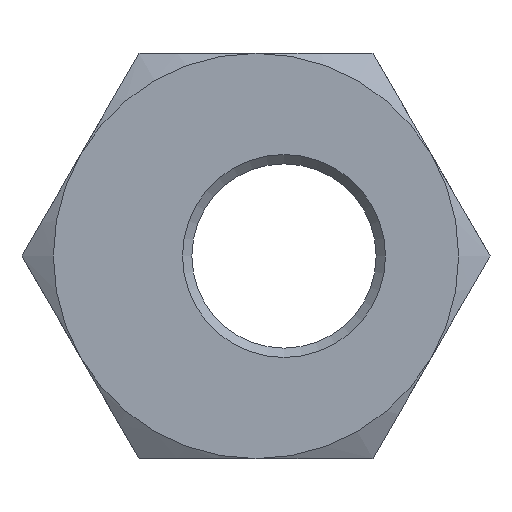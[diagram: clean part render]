
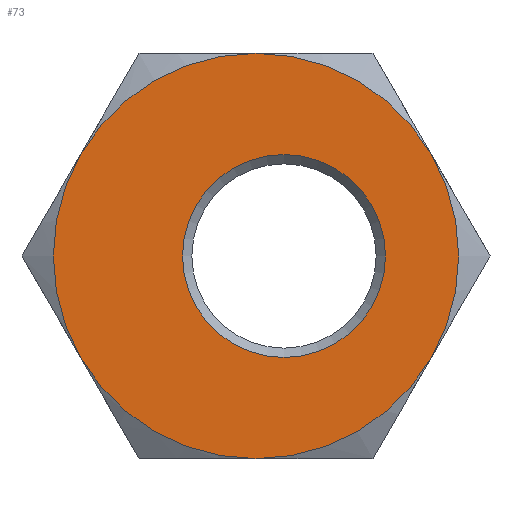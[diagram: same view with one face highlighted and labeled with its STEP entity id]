
A CAD part, left-side view. The second image highlights one B-rep face of the part: STEP entity #73.
In plain terms, the highlighted planar face has unit normal (-1, 0, 0).
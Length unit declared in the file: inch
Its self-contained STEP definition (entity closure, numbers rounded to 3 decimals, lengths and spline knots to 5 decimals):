
#73 = ADVANCED_FACE( '', ( #160, #161 ), #162, .F. );
#160 = FACE_OUTER_BOUND( '', #257, .T. );
#161 = FACE_BOUND( '', #258, .T. );
#162 = PLANE( '', #259 );
#257 = EDGE_LOOP( '', ( #393, #394, #395, #396, #397, #398 ) );
#258 = EDGE_LOOP( '', ( #399 ) );
#259 = AXIS2_PLACEMENT_3D( '', #400, #401, #402 );
#393 = ORIENTED_EDGE( '', *, *, #565, .F. );
#394 = ORIENTED_EDGE( '', *, *, #536, .F. );
#395 = ORIENTED_EDGE( '', *, *, #566, .F. );
#396 = ORIENTED_EDGE( '', *, *, #567, .F. );
#397 = ORIENTED_EDGE( '', *, *, #554, .F. );
#398 = ORIENTED_EDGE( '', *, *, #568, .F. );
#399 = ORIENTED_EDGE( '', *, *, #550, .T. );
#400 = CARTESIAN_POINT( '', ( 0., 0., 0. ) );
#401 = DIRECTION( '', ( 1., 0., 0. ) );
#402 = DIRECTION( '', ( 0., 0., -1. ) );
#536 = EDGE_CURVE( '', #627, #628, #629, .T. );
#550 = EDGE_CURVE( '', #649, #649, #650, .T. );
#554 = EDGE_CURVE( '', #655, #652, #657, .T. );
#565 = EDGE_CURVE( '', #628, #667, #674, .T. );
#566 = EDGE_CURVE( '', #604, #627, #675, .T. );
#567 = EDGE_CURVE( '', #652, #604, #676, .T. );
#568 = EDGE_CURVE( '', #667, #655, #677, .T. );
#604 = VERTEX_POINT( '', #727 );
#627 = VERTEX_POINT( '', #762 );
#628 = VERTEX_POINT( '', #763 );
#629 = CIRCLE( '', #764, 0.43307 );
#649 = VERTEX_POINT( '', #820 );
#650 = CIRCLE( '', #821, 0.21685 );
#652 = VERTEX_POINT( '', #823 );
#655 = VERTEX_POINT( '', #833 );
#657 = CIRCLE( '', #840, 0.43307 );
#667 = VERTEX_POINT( '', #864 );
#674 = CIRCLE( '', #883, 0.43307 );
#675 = CIRCLE( '', #884, 0.43307 );
#676 = CIRCLE( '', #885, 0.43307 );
#677 = CIRCLE( '', #886, 0.43307 );
#727 = CARTESIAN_POINT( '', ( 0., -0.37505, -0.21654 ) );
#762 = CARTESIAN_POINT( '', ( 0., 0., -0.43307 ) );
#763 = CARTESIAN_POINT( '', ( 0., 0.37505, -0.21654 ) );
#764 = AXIS2_PLACEMENT_3D( '', #991, #992, #993 );
#820 = CARTESIAN_POINT( '', ( 0., -0.05984, -0.21685 ) );
#821 = AXIS2_PLACEMENT_3D( '', #1003, #1004, #1005 );
#823 = CARTESIAN_POINT( '', ( 0., -0.37505, 0.21654 ) );
#833 = CARTESIAN_POINT( '', ( 0., 0., 0.43307 ) );
#840 = AXIS2_PLACEMENT_3D( '', #1006, #1007, #1008 );
#864 = CARTESIAN_POINT( '', ( 0., 0.37505, 0.21654 ) );
#883 = AXIS2_PLACEMENT_3D( '', #1014, #1015, #1016 );
#884 = AXIS2_PLACEMENT_3D( '', #1017, #1018, #1019 );
#885 = AXIS2_PLACEMENT_3D( '', #1020, #1021, #1022 );
#886 = AXIS2_PLACEMENT_3D( '', #1023, #1024, #1025 );
#991 = CARTESIAN_POINT( '', ( 0., 0., 0. ) );
#992 = DIRECTION( '', ( 1., 0., 0. ) );
#993 = DIRECTION( '', ( 0., 0., -1. ) );
#1003 = CARTESIAN_POINT( '', ( 0., -0.05984, 0. ) );
#1004 = DIRECTION( '', ( 1., 0., 0. ) );
#1005 = DIRECTION( '', ( 0., 0., -1. ) );
#1006 = CARTESIAN_POINT( '', ( 0., 0., 0. ) );
#1007 = DIRECTION( '', ( 1., 0., 0. ) );
#1008 = DIRECTION( '', ( 0., 0., -1. ) );
#1014 = CARTESIAN_POINT( '', ( 0., 0., 0. ) );
#1015 = DIRECTION( '', ( 1., 0., 0. ) );
#1016 = DIRECTION( '', ( 0., 0., -1. ) );
#1017 = CARTESIAN_POINT( '', ( 0., 0., 0. ) );
#1018 = DIRECTION( '', ( 1., 0., 0. ) );
#1019 = DIRECTION( '', ( 0., 0., -1. ) );
#1020 = CARTESIAN_POINT( '', ( 0., 0., 0. ) );
#1021 = DIRECTION( '', ( 1., 0., 0. ) );
#1022 = DIRECTION( '', ( 0., 0., -1. ) );
#1023 = CARTESIAN_POINT( '', ( 0., 0., 0. ) );
#1024 = DIRECTION( '', ( 1., 0., 0. ) );
#1025 = DIRECTION( '', ( 0., 0., -1. ) );
